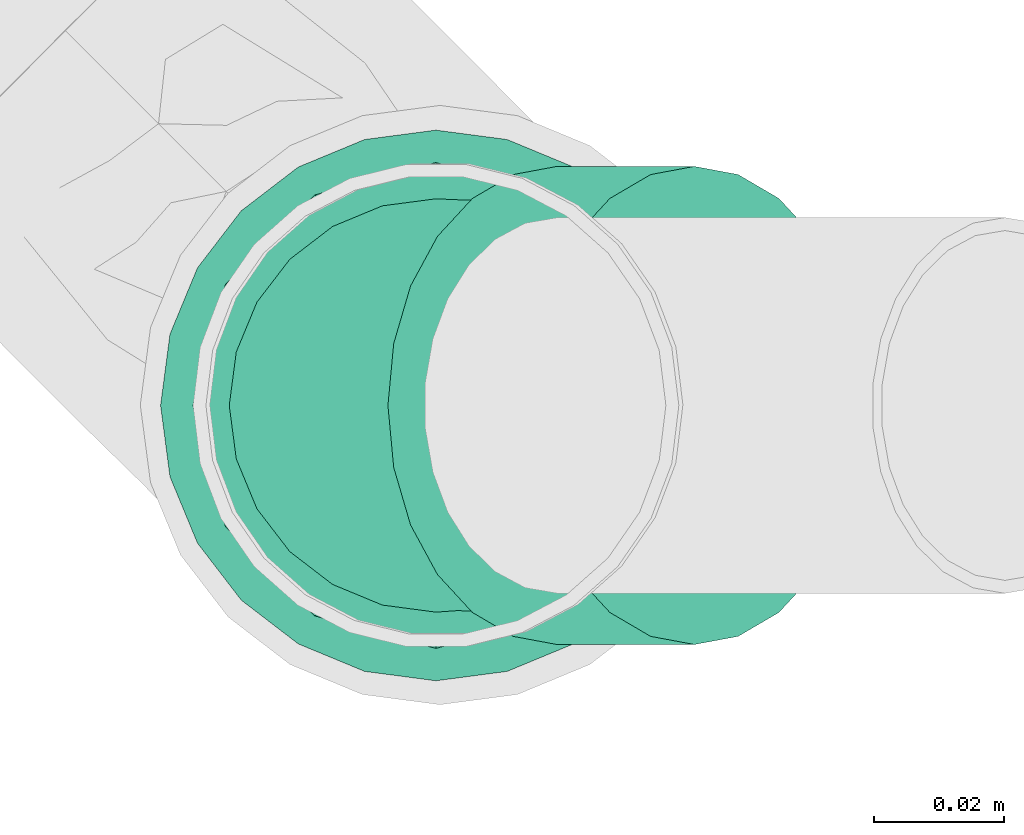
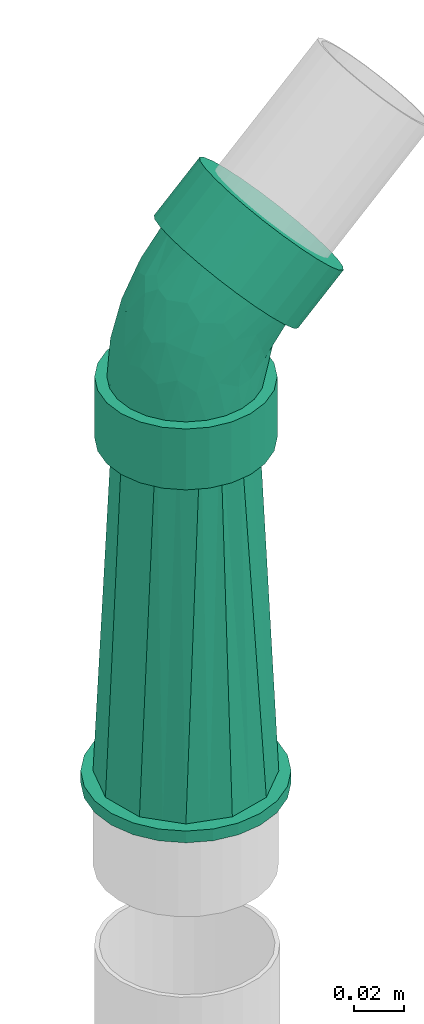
# One storey, part 67 of 83: 2 flow fittings.
"""IFC2X3 building model written with IfcOpenShell, lengths in millimetres."""

from ifc_helpers import new_model, entity, si_unit, converted_unit, derived_unit, direction, frame, origin_with_axes, place, context, subcontext, project, spatial, open_shell, surface_model, source, transform, mapped, type_object, element, save


model = new_model("IFC2X3")

# Units and contexts
model_context = context("Model", 3, precision=0.01, world=frame((0.0, 4.29681676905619e-09, 0.0)), true_north=direction((4.01073788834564e-13, 1.0)))
plan_context = context("Plan", 3, precision=0.01, world=frame((0.0, 4.29681676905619e-09, 0.0)), true_north=direction((4.01073788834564e-13, 1.0)))
body_context = subcontext(model_context, "Body", "Model", "MODEL_VIEW")
ifc_project = project(units=[converted_unit("PLANEANGLEUNIT", "DEGREE", entity("IfcPositiveLengthMeasure", 0.0174532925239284), si_unit("PLANEANGLEUNIT", "RADIAN"), dimensions=[0, 0, 0, 0, 0, 0, 0]), si_unit("AREAUNIT", "SQUARE_METRE"), si_unit("LENGTHUNIT", "METRE", prefix="MILLI"), si_unit("MASSUNIT", "GRAM", prefix="KILO"), si_unit("POWERUNIT", "WATT"), si_unit("PRESSUREUNIT", "PASCAL"), si_unit("FORCEUNIT", "NEWTON", prefix="KILO"), si_unit("ELECTRICVOLTAGEUNIT", "VOLT"), si_unit("ELECTRICCURRENTUNIT", "AMPERE"), si_unit("THERMODYNAMICTEMPERATUREUNIT", "DEGREE_CELSIUS"), si_unit("TIMEUNIT", "SECOND"), si_unit("VOLUMEUNIT", "CUBIC_METRE"), derived_unit("LINEARVELOCITYUNIT", [(si_unit("LENGTHUNIT", "METRE"), 1), (si_unit("TIMEUNIT", "SECOND"), -1)]), derived_unit("VOLUMETRICFLOWRATEUNIT", [(si_unit("VOLUMEUNIT", "CUBIC_METRE"), 1), (si_unit("TIMEUNIT", "SECOND"), -1)]), derived_unit("THERMALTRANSMITTANCEUNIT", [(si_unit("POWERUNIT", "WATT"), 1), (si_unit("THERMODYNAMICTEMPERATUREUNIT", "KELVIN"), -1), (si_unit("AREAUNIT", "SQUARE_METRE"), -1)]), derived_unit("SOUNDPRESSUREUNIT", [(si_unit("PRESSUREUNIT", "PASCAL"), 1)])], contexts=[model_context, plan_context])

# Site, building, storey
site_placement = place(None, frame((0.0, -4.29681676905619e-09, 0.0), z_axis=(0.0, 0.0, 1.0), x_axis=(1.0, 0.0, 0.0)))
site = spatial("IfcSite", under=ifc_project, at=site_placement, Name="ENGM", CompositionType="ELEMENT")
building_placement = place(site_placement, frame((0.0, 4.29681676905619e-09, 0.0), z_axis=(0.0, 0.0, 1.0), x_axis=(1.0, 0.0, 0.0)))
building = spatial("IfcBuilding", under=site, at=building_placement, Name="TI", CompositionType="ELEMENT")
storey_placement = place(building_placement, frame((0.0, 0.0, 204000.0), z_axis=(0.0, 0.0, 1.0), x_axis=(1.0, 0.0, 0.0)))
storey = spatial("IfcBuildingStorey", under=building, at=storey_placement, Name="Nivå D", CompositionType="ELEMENT", Elevation=204000.0)

# Flow fittings
pipe_fitting_type_1 = type_object("IfcPipeFittingType", Name="magi_sewer_bend_001", PredefinedType="BEND")
shared_shape_1 = source(origin_with_axes(), body_context, "Body", "SurfaceModel", [
    surface_model("IfcShellBasedSurfaceModel", [(-56.42682, -9.55042, -35.64266), (-56.42682, -18.45, -31.95634), (-56.42682, -26.09224, -26.09224), (-56.42682, 9.55042, -35.64266), (-56.42682, -35.64266, -9.55042), (-56.42682, -36.9, 0.0), (-56.42682, -31.95634, -18.45), (-56.42682, 35.64266, -9.55042), (-56.42682, 0.0, -36.9), (-56.42682, 18.45, -31.95634), (-56.42682, 31.95634, -18.45), (-56.42682, 26.09224, -26.09224), (-56.42682, -35.64266, 9.55042), (-56.42682, -31.95634, 18.45), (-56.42682, -26.09224, 26.09224), (-56.42682, 18.45, 31.95634), (-56.42682, -9.55042, 35.64266), (-56.42682, 0.0, 36.9), (-56.42682, -18.45, 31.95634), (-56.42682, 35.64266, 9.55042), (-56.42682, 31.95634, 18.45), (-56.42682, 36.9, 0.0), (-56.42682, 26.09224, 26.09224), (-56.42682, 9.55042, 35.64266), (-26.42683, -26.09224, 26.09224), (-26.42683, 0.0, 36.9), (-26.42683, -9.55042, 35.64266), (-26.42683, -18.45, 31.95634), (-26.42683, -31.95634, 18.45), (-26.42683, -35.64266, 9.55042), (-26.42683, 35.64266, 9.55042), (-26.42683, 18.45, 31.95634), (-26.42683, 31.95634, 18.45), (-26.42683, 26.09224, 26.09224), (-26.42683, 9.55042, 35.64266), (-26.42683, 35.64266, -9.55042), (-26.42683, 36.9, 0.0), (-26.42683, -26.09224, -26.09224), (-26.42683, -36.9, 0.0), (-26.42683, -35.64266, -9.55042), (-26.42683, -31.95634, -18.45), (-26.42683, -18.45, -31.95634), (-26.42683, -9.55042, -35.64266), (-26.42683, 9.55042, -35.64266), (-26.42683, 0.0, -36.9), (-26.42683, 31.95634, -18.45), (-26.42683, 18.45, -31.95634), (-26.42683, 26.09224, -26.09224), (14.69662, 65.10296, 9.55042), (17.30325, 62.49634, 18.45), (21.44979, 58.34979, 26.09224), (13.80755, 65.99203, 0.0), (26.85367, 52.94591, 31.95634), (33.14662, 46.65296, 35.64266), (39.89979, 39.89979, 36.9), (33.14662, 46.65296, -35.64266), (14.69662, 65.10296, -9.55042), (26.85367, 52.94591, -31.95634), (17.30325, 62.49634, -18.45), (21.44979, 58.34979, -26.09224), (46.65296, 33.14662, 35.64266), (62.49634, 17.30325, 18.45), (52.94591, 26.85367, 31.95634), (58.34979, 21.44979, 26.09224), (65.10296, 14.69662, 9.55042), (65.99203, 13.80755, 0.0), (46.65296, 33.14662, -35.64266), (58.34979, 21.44979, -26.09224), (52.94591, 26.85367, -31.95634), (39.89979, 39.89979, -36.9), (65.10296, 14.69662, -9.55042), (62.49634, 17.30325, -18.45), (44.77883, -7.40565, 0.0), (43.88975, -6.51658, 9.55042), (41.28313, -3.90996, 18.45), (37.13659, 0.23659, 26.09224), (31.73271, 5.64047, 31.95634), (25.43976, 11.93342, 35.64266), (25.43976, 11.93342, -35.64266), (18.68659, 18.68659, 36.9), (43.88975, -6.51658, -9.55042), (37.13659, 0.23659, -26.09224), (41.28313, -3.90996, -18.45), (31.73271, 5.64047, -31.95634), (11.93342, 25.43976, -35.64266), (18.68659, 18.68659, -36.9), (0.23659, 37.13659, 26.09224), (11.93342, 25.43976, 35.64266), (5.64047, 31.73271, 31.95634), (-3.90996, 41.28313, 18.45), (-6.51658, 43.88975, 9.55042), (-6.51658, 43.88975, -9.55042), (5.64047, 31.73271, -31.95634), (-3.90996, 41.28313, -18.45), (0.23659, 37.13659, -26.09224), (-7.40565, 44.77883, 0.0), (-26.42683, 0.0, -31.9), (-26.42683, -22.55671, -22.55671), (-26.42683, 8.25633, -30.81303), (-26.42683, 15.95, -27.62621), (-26.42683, 22.55671, -22.55671), (-26.42683, 30.81303, -8.25633), (-26.42683, 27.62621, -15.95), (-26.42683, -30.81303, -8.25633), (-26.42683, 15.95, 27.62621), (-26.42683, -15.95, -27.62621), (-26.42683, -8.25633, -30.81303), (-26.42683, -27.62621, -15.95), (-26.42683, -31.9, 0.0), (-26.42683, -15.95, 27.62621), (-26.42683, 30.81303, 8.25633), (-26.42683, 27.62621, 15.95), (-26.42683, 22.55671, 22.55671), (-26.42683, 8.25633, 30.81303), (-26.42683, -30.81303, 8.25633), (-26.42683, -27.62621, 15.95), (-26.42683, -22.55671, 22.55671), (-26.42683, -8.25633, 30.81303), (-26.42683, 0.0, 31.9), (-26.42683, 31.9, 0.0), (12.84848, 24.52469, -30.81303), (34.63659, 2.73659, -22.55671), (18.68659, 18.68659, -31.9), (2.73659, 34.63659, -22.55671), (7.40823, 29.96494, -27.62621), (-0.84809, 38.22127, -15.95), (-3.10152, 40.47469, -8.25633), (40.47469, -3.10152, 8.25633), (40.47469, -3.10152, -8.25633), (24.52469, 12.84848, -30.81303), (29.96494, 7.40823, -27.62621), (38.22127, -0.84809, -15.95), (41.24329, -3.87012, 0.0), (-3.10152, 40.47469, 8.25633), (38.22127, -0.84809, 15.95), (-3.87012, 41.24329, 0.0), (2.73659, 34.63659, 22.55671), (-0.84809, 38.22127, 15.95), (7.40823, 29.96494, 27.62621), (34.63659, 2.73659, 22.55671), (12.84848, 24.52469, 30.81303), (29.96494, 7.40823, 27.62621), (24.52469, 12.84848, 30.81303), (18.68659, 18.68659, 31.9), (8.12473, -19.61484, 17.7769), (-7.05738, -18.02915, 24.61529), (-10.3009, -24.39746, 18.67868), (-10.6584, -29.82405, 0.0), (-1.65784, -28.6391, 0.0), (-6.80885, -29.38889, 5.44723), (24.53544, -9.96777, 18.67868), (-12.63998, -11.69747, 29.15496), (3.27541, -7.90755, 28.75303), (0.94687, 19.1776, 29.77411), (5.76678, 15.10003, 31.43602), (-9.52072, -3.07141, 31.47738), (-3.03412, 7.32502, 31.7879), (-15.98337, 4.42042, 31.70641), (-9.06126, 21.87581, 26.04333), (-14.06781, 26.75285, 20.13105), (17.20917, 0.66646, 29.15496), (-12.25699, 13.27446, 29.822), (12.3108, -20.87814, 12.57203), (-5.71978, -27.59833, 11.07805), (9.90414, -23.91071, 6.93348), (-13.14137, 31.72606, 13.1059), (25.59567, -15.9665, 5.44723), (28.62541, -13.55216, 0.0), (-12.77736, 34.18175, 6.70257), (23.55946, -15.47048, 11.07805), (8.90398, 4.56035, 31.47738), (17.73885, -7.75821, 24.61529), (-14.21922, 34.32824, 0.0), (5.35435, -12.92655, 25.43848), (9.88267, -23.85887, 0.0), (21.42317, -19.07863, 0.0), (-9.52072, -3.07141, -31.47738), (-6.80885, -29.38889, -5.44723), (9.90414, -23.91071, -6.93348), (8.90398, 4.56035, -31.47738), (-14.23015, 12.89108, -29.77411), (-14.75506, 6.5996, -31.43602), (-8.96968, 28.86457, -20.13105), (17.73885, -7.75821, -24.61529), (-13.14137, 31.72606, -13.1059), (23.55946, -15.47048, -11.07805), (-15.13519, 33.20511, -6.70257), (-0.71946, 18.05346, -29.822), (-5.71978, -27.59833, -11.07805), (-9.06126, 21.87581, -26.04333), (-10.3009, -24.39746, -18.67868), (-7.05738, -18.02915, -24.61529), (5.35435, -12.92655, -25.43848), (8.12473, -19.61484, -17.7769), (-12.63998, -11.69747, -29.15496), (17.20917, 0.66646, -29.15496), (3.27541, -7.90755, -28.75303), (25.59567, -15.9665, -5.44723), (8.17623, 14.42766, -31.70641), (6.05802, -23.46812, -12.57203), (24.53544, -9.96777, -18.67868), (-3.03412, 7.32502, -31.7879)], [open_shell([[[0, 1, 2]], [[3, 0, 2]], [[4, 5, 2]], [[4, 2, 6]], [[7, 2, 5]], [[0, 3, 8]], [[2, 9, 3]], [[9, 10, 11]], [[2, 10, 9]], [[2, 7, 10]], [[5, 12, 7]], [[12, 13, 14]], [[15, 12, 14]], [[16, 17, 14]], [[16, 14, 18]], [[15, 14, 17]], [[19, 15, 20]], [[21, 7, 19]], [[20, 15, 22]], [[19, 12, 15]], [[23, 15, 17]], [[19, 7, 12]], [[24, 25, 26]], [[24, 26, 27]], [[24, 28, 29]], [[25, 24, 30]], [[30, 24, 29]], [[31, 32, 33]], [[31, 34, 25]], [[31, 30, 32]], [[25, 30, 31]], [[30, 35, 36]], [[30, 29, 35]], [[37, 38, 39]], [[37, 39, 40]], [[37, 41, 42]], [[38, 37, 43]], [[44, 37, 42]], [[45, 46, 47]], [[45, 35, 38]], [[38, 43, 46]], [[46, 45, 38]], [[43, 37, 44]], [[38, 35, 29]], [[35, 7, 36]], [[45, 10, 35]], [[9, 47, 46]], [[45, 47, 11]], [[3, 46, 43]], [[35, 10, 7]], [[7, 21, 36]], [[3, 9, 46]], [[11, 47, 9]], [[11, 10, 45]], [[8, 3, 43]], [[43, 44, 8]], [[42, 0, 44]], [[41, 1, 42]], [[39, 38, 4]], [[37, 2, 41]], [[41, 2, 1]], [[1, 0, 42]], [[6, 40, 4]], [[6, 2, 37]], [[4, 40, 39]], [[38, 5, 4]], [[6, 37, 40]], [[44, 0, 8]], [[29, 12, 38]], [[28, 13, 29]], [[18, 24, 27]], [[28, 24, 14]], [[16, 27, 26]], [[29, 13, 12]], [[12, 5, 38]], [[16, 18, 27]], [[14, 24, 18]], [[14, 13, 28]], [[17, 16, 26]], [[26, 25, 17]], [[15, 31, 33]], [[20, 32, 30]], [[33, 32, 22]], [[19, 30, 36]], [[23, 34, 15]], [[34, 23, 25]], [[34, 31, 15]], [[33, 22, 15]], [[32, 20, 22]], [[19, 20, 30]], [[36, 21, 19]], [[25, 23, 17]], [[48, 49, 50]], [[51, 48, 50]], [[52, 53, 54]], [[52, 54, 50]], [[55, 50, 54]], [[56, 57, 58]], [[56, 51, 50]], [[58, 57, 59]], [[50, 57, 56]], [[50, 55, 57]], [[54, 60, 55]], [[61, 60, 62]], [[61, 62, 63]], [[61, 64, 65]], [[61, 65, 60]], [[60, 65, 66]], [[66, 67, 68]], [[69, 55, 66]], [[67, 70, 71]], [[67, 66, 65]], [[70, 67, 65]], [[66, 55, 60]], [[72, 73, 74]], [[72, 74, 75]], [[75, 76, 77]], [[75, 77, 72]], [[78, 72, 79]], [[80, 81, 82]], [[80, 72, 81]], [[81, 78, 83]], [[72, 78, 81]], [[78, 84, 85]], [[79, 72, 77]], [[86, 79, 87]], [[86, 87, 88]], [[86, 89, 90]], [[86, 91, 78]], [[91, 86, 90]], [[92, 93, 94]], [[84, 78, 92]], [[93, 92, 78]], [[93, 78, 91]], [[90, 95, 91]], [[86, 78, 79]], [[84, 55, 85]], [[92, 57, 84]], [[58, 94, 93]], [[92, 94, 59]], [[56, 93, 91]], [[84, 57, 55]], [[55, 69, 85]], [[56, 58, 93]], [[59, 94, 58]], [[59, 57, 92]], [[51, 56, 91]], [[91, 95, 51]], [[90, 48, 95]], [[89, 49, 90]], [[87, 79, 53]], [[86, 50, 89]], [[89, 50, 49]], [[49, 48, 90]], [[52, 88, 53]], [[52, 50, 86]], [[53, 88, 87]], [[79, 54, 53]], [[52, 86, 88]], [[95, 48, 51]], [[77, 60, 79]], [[76, 62, 77]], [[61, 75, 74]], [[76, 75, 63]], [[64, 74, 73]], [[77, 62, 60]], [[60, 54, 79]], [[64, 61, 74]], [[63, 75, 61]], [[63, 62, 76]], [[65, 64, 73]], [[73, 72, 65]], [[71, 82, 81]], [[68, 83, 78]], [[81, 83, 67]], [[66, 78, 85]], [[70, 80, 71]], [[80, 70, 72]], [[80, 82, 71]], [[81, 67, 71]], [[83, 68, 67]], [[66, 68, 78]], [[85, 69, 66]], [[72, 70, 65]], [[96, 97, 98]], [[99, 98, 100]], [[101, 102, 100]], [[100, 98, 97]], [[100, 103, 104]], [[105, 97, 106]], [[97, 96, 106]], [[107, 103, 97]], [[97, 103, 100]], [[108, 109, 103]], [[101, 100, 110]], [[104, 110, 100]], [[111, 110, 104]], [[103, 109, 104]], [[112, 111, 104]], [[113, 104, 109]], [[114, 115, 108]], [[108, 115, 116]], [[117, 118, 109]], [[109, 108, 116]], [[113, 109, 118]], [[110, 119, 101]], [[120, 121, 122]], [[123, 120, 124]], [[123, 125, 126]], [[121, 120, 123]], [[123, 127, 128]], [[129, 121, 130]], [[129, 122, 121]], [[121, 128, 131]], [[123, 128, 121]], [[128, 127, 132]], [[123, 126, 127]], [[133, 134, 135]], [[136, 133, 137]], [[133, 138, 139]], [[138, 133, 136]], [[140, 141, 138]], [[135, 134, 127]], [[133, 139, 134]], [[140, 142, 141]], [[141, 139, 138]], [[142, 140, 143]], [[135, 127, 126]], [[144, 145, 146]], [[147, 148, 149]], [[109, 116, 145]], [[134, 139, 150]], [[151, 145, 152]], [[146, 145, 116]], [[140, 153, 154]], [[117, 109, 151]], [[155, 156, 157]], [[118, 117, 155]], [[112, 158, 159]], [[141, 142, 160]], [[157, 113, 118]], [[104, 161, 158]], [[114, 147, 149]], [[138, 136, 158]], [[162, 163, 164]], [[158, 112, 104]], [[116, 115, 146]], [[111, 159, 165]], [[110, 111, 165]], [[127, 166, 167]], [[168, 119, 110]], [[169, 162, 164]], [[163, 149, 164]], [[104, 113, 161]], [[143, 154, 170]], [[139, 141, 171]], [[137, 133, 165]], [[170, 142, 143]], [[144, 146, 163]], [[139, 171, 150]], [[156, 154, 153]], [[171, 141, 160]], [[115, 163, 146]], [[166, 127, 169]], [[144, 150, 171]], [[157, 161, 113]], [[144, 162, 150]], [[110, 165, 168]], [[115, 114, 163]], [[172, 168, 135]], [[145, 173, 152]], [[133, 168, 165]], [[152, 170, 155]], [[137, 165, 159]], [[152, 160, 170]], [[137, 159, 136]], [[156, 155, 170]], [[140, 138, 153]], [[153, 158, 161]], [[151, 155, 117]], [[111, 112, 159]], [[169, 127, 134]], [[169, 134, 150]], [[173, 144, 171]], [[136, 159, 158]], [[158, 153, 138]], [[156, 153, 161]], [[145, 151, 109]], [[155, 151, 152]], [[170, 160, 142]], [[171, 160, 152]], [[114, 108, 147]], [[164, 148, 174]], [[114, 149, 163]], [[148, 164, 149]], [[166, 164, 175]], [[167, 166, 175]], [[167, 132, 127]], [[164, 166, 169]], [[170, 154, 156]], [[143, 140, 154]], [[155, 157, 118]], [[161, 157, 156]], [[144, 173, 145]], [[171, 152, 173]], [[135, 168, 133]], [[168, 172, 119]], [[150, 162, 169]], [[163, 162, 144]], [[175, 164, 174]], [[106, 96, 176]], [[148, 177, 178]], [[122, 129, 179]], [[180, 181, 98]], [[102, 182, 100]], [[130, 121, 183]], [[184, 182, 102]], [[131, 128, 185]], [[101, 186, 184]], [[124, 120, 187]], [[103, 177, 147]], [[99, 180, 98]], [[177, 103, 188]], [[123, 189, 182]], [[188, 107, 190]], [[190, 97, 191]], [[97, 105, 191]], [[192, 193, 191]], [[103, 107, 188]], [[97, 190, 107]], [[194, 105, 106]], [[195, 179, 129]], [[126, 125, 184]], [[196, 194, 176]], [[119, 172, 186]], [[193, 190, 191]], [[135, 126, 186]], [[196, 176, 179]], [[123, 124, 189]], [[184, 102, 101]], [[125, 182, 184]], [[194, 191, 105]], [[187, 189, 124]], [[181, 176, 96]], [[189, 187, 180]], [[100, 189, 99]], [[128, 167, 197]], [[198, 120, 122]], [[195, 129, 130]], [[199, 185, 178]], [[121, 200, 183]], [[196, 195, 183]], [[121, 131, 200]], [[201, 198, 179]], [[200, 193, 183]], [[201, 179, 176]], [[197, 167, 175]], [[198, 187, 120]], [[201, 181, 180]], [[177, 188, 178]], [[193, 199, 190]], [[183, 192, 196]], [[131, 185, 200]], [[126, 184, 186]], [[193, 200, 185]], [[125, 123, 182]], [[100, 182, 189]], [[189, 180, 99]], [[201, 180, 187]], [[176, 194, 106]], [[191, 194, 196]], [[183, 195, 130]], [[179, 195, 196]], [[147, 177, 148]], [[147, 108, 103]], [[199, 178, 188]], [[197, 178, 185]], [[178, 175, 174]], [[128, 132, 167]], [[178, 197, 175]], [[128, 197, 185]], [[176, 181, 201]], [[96, 98, 181]], [[179, 198, 122]], [[187, 198, 201]], [[193, 192, 183]], [[191, 196, 192]], [[119, 186, 101]], [[186, 172, 135]], [[190, 199, 188]], [[185, 199, 193]], [[148, 178, 174]]])]),
])
flow_fitting_1_placement = place(storey_placement, frame((609124.91157, 693990.76857, 6998.02262999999), z_axis=(0.0, 1.0, 0.0), x_axis=(0.0, 0.0, 1.0)))
element("IfcFlowFitting", 1, at=flow_fitting_1_placement, inside=storey, type_object=pipe_fitting_type_1, Name="magi_sewer_bend_001", context=body_context, shape_type="MappedRepresentation", body=[
    mapped(shared_shape_1, transform((0.0, 0.0, 0.0), scale=1.0)),
])
pipe_fitting_type_2 = type_object("IfcPipeFittingType", Name="magi_sewer_transition_001", PredefinedType="TRANSITION")
shared_shape_2 = source(origin_with_axes(), body_context, "Body", "SurfaceModel", [
    surface_model("IfcShellBasedSurfaceModel", [(200.0, 21.25, -36.80608), (200.0, -41.05185, -10.99981), (200.0, 10.99981, -41.05185), (200.0, 36.80608, -21.25), (200.0, 30.05204, -30.05204), (200.0, 41.05185, -10.99981), (200.0, 42.5, 0.0), (200.0, 30.05204, 30.05204), (200.0, -10.99981, -41.05185), (200.0, -21.25, -36.80608), (200.0, 0.0, -42.5), (200.0, -30.05204, -30.05204), (200.0, -36.80608, -21.25), (200.0, 41.05185, 10.99981), (200.0, 36.80608, 21.25), (200.0, 10.99981, 41.05185), (200.0, 0.0, 42.5), (200.0, 21.25, 36.80608), (200.0, -42.5, 0.0), (200.0, -41.05185, 10.99981), (200.0, -10.99981, 41.05185), (200.0, -36.80608, 21.25), (200.0, -30.05204, 30.05204), (200.0, -21.25, 36.80608), (0.0, 17.0, -29.44486), (0.0, 32.84148, -8.79985), (0.0, 24.04163, -24.04163), (194.19999, 0.0, 37.5), (194.19999, -18.75, 32.47595), (194.19999, -32.47595, 18.75), (194.19999, 18.75, 32.47595), (194.19999, 37.5, 0.0), (194.19999, 32.47595, 18.75), (194.19999, -32.47595, -18.75), (194.19999, -18.75, -32.47595), (194.19999, 0.0, -37.5), (194.19999, 18.75, -32.47595), (194.19999, 32.47595, -18.75), (194.19999, -37.5, 0.0), (5.8, 8.96149, 27.58064), (5.8, 23.46149, 17.04577), (5.8, -8.96149, 27.58064), (5.8, -29.0, 0.0), (5.8, -23.46149, 17.04577), (5.8, -8.96149, -27.58064), (5.8, 23.46149, -17.04577), (5.8, 8.96149, -27.58064), (5.8, -23.46149, -17.04577), (5.8, 29.0, 0.0), (5.8, -26.23075, -8.52289), (194.19999, 9.375, -34.98798), (5.8, 0.0, -27.58064), (194.19999, -35.7121, -6.67254), (194.19999, -25.61298, -25.61298), (5.8, -16.21149, -22.3132), (5.8, 16.21149, -22.3132), (194.19999, 35.7121, -6.67254), (5.8, 26.23075, -8.52289), (194.19999, 25.61298, -25.61298), (194.19999, -9.375, -34.98798), (5.8, 26.23075, 8.52289), (194.19999, -9.375, 34.98798), (5.8, 0.0, 27.58064), (194.19999, 35.7121, 6.67254), (194.19999, 25.61298, 25.61298), (5.8, 16.21149, 22.3132), (5.8, -16.21149, 22.3132), (194.19999, -35.7121, 6.67254), (5.8, -26.23075, 8.52289), (194.19999, -25.61298, 25.61298), (194.19999, 9.375, 34.98798), (194.19999, 10.99981, 41.05185), (194.19999, -10.99981, 41.05185), (194.19999, 0.0, 42.5), (194.19999, 30.05204, 30.05204), (194.19999, 21.25, 36.80608), (194.19999, 36.80608, 21.25), (194.19999, 41.05185, 10.99981), (194.19999, -42.5, 0.0), (194.19999, -41.05185, -10.99981), (194.19999, -30.05204, 30.05204), (194.19999, -21.25, 36.80608), (194.19999, -36.80608, 21.25), (194.19999, -41.05185, 10.99981), (194.19999, 21.25, -36.80608), (194.19999, 42.5, 0.0), (194.19999, 41.05185, -10.99981), (194.19999, 36.80608, -21.25), (194.19999, -10.99981, -41.05185), (194.19999, 30.05204, -30.05204), (194.19999, 10.99981, -41.05185), (194.19999, -30.05204, -30.05204), (194.19999, -36.80608, -21.25), (194.19999, -21.25, -36.80608), (194.19999, 0.0, -42.5), (5.8, 17.0, -29.44486), (5.8, -17.0, -29.44486), (5.8, 8.79985, -32.84148), (5.8, 29.44486, -17.0), (5.8, 24.04163, -24.04163), (5.8, 32.84148, -8.79985), (5.8, 34.0, 0.0), (5.8, 0.0, -34.0), (5.8, -8.79985, -32.84148), (5.8, -24.04163, -24.04163), (5.8, -32.84148, -8.79985), (5.8, -29.44486, -17.0), (5.8, 32.84148, 8.79985), (5.8, 29.44486, 17.0), (5.8, 24.04163, 24.04163), (5.8, 17.0, 29.44486), (5.8, 8.79985, 32.84148), (5.8, 0.0, 34.0), (5.8, -8.79985, 32.84148), (5.8, -32.84148, 8.79985), (5.8, -24.04163, 24.04163), (5.8, -29.44486, 17.0), (5.8, -34.0, 0.0), (5.8, -17.0, 29.44486), (0.0, 0.0, 34.0), (0.0, 8.79985, 32.84148), (0.0, 17.0, 29.44486), (0.0, 24.04163, 24.04163), (0.0, 29.44486, 17.0), (0.0, 32.84148, 8.79985), (0.0, -32.84148, 8.79985), (0.0, -8.79985, 32.84148), (0.0, -24.04163, 24.04163), (0.0, -17.0, 29.44486), (0.0, -29.44486, 17.0), (0.0, -32.84148, -8.79985), (0.0, -34.0, 0.0), (0.0, 34.0, 0.0), (0.0, 29.44486, -17.0), (0.0, 8.79985, -32.84148), (0.0, -24.04163, -24.04163), (0.0, -29.44486, -17.0), (0.0, -17.0, -29.44486), (0.0, 0.0, -34.0), (0.0, -8.79985, -32.84148)], [open_shell([[[0, 1, 2]], [[3, 0, 4]], [[3, 5, 6]], [[0, 3, 7]], [[7, 1, 0]], [[8, 1, 9]], [[8, 10, 2]], [[11, 1, 12]], [[1, 11, 9]], [[2, 1, 8]], [[13, 3, 6]], [[13, 14, 7]], [[7, 15, 1]], [[15, 16, 1]], [[15, 7, 17]], [[1, 16, 18]], [[19, 20, 21]], [[20, 19, 18]], [[22, 20, 23]], [[20, 22, 21]], [[18, 16, 20]], [[7, 3, 13]], [[24, 25, 26]], [[27, 28, 29]], [[27, 29, 30]], [[30, 31, 32]], [[31, 30, 29]], [[29, 33, 31]], [[33, 34, 31]], [[35, 31, 34]], [[36, 37, 31]], [[31, 35, 36]], [[38, 33, 29]], [[39, 40, 41]], [[41, 42, 43]], [[42, 41, 40]], [[40, 44, 42]], [[45, 46, 40]], [[42, 44, 47]], [[40, 46, 44]], [[40, 48, 45]], [[33, 49, 47]], [[46, 50, 51]], [[33, 52, 49]], [[53, 47, 54]], [[42, 52, 38]], [[52, 42, 49]], [[36, 46, 55]], [[48, 31, 56]], [[37, 57, 56]], [[54, 44, 34]], [[56, 57, 48]], [[45, 37, 58]], [[54, 34, 53]], [[46, 36, 50]], [[51, 59, 44]], [[55, 45, 58]], [[45, 57, 37]], [[59, 34, 44]], [[36, 55, 58]], [[51, 50, 35]], [[59, 51, 35]], [[33, 47, 53]], [[32, 60, 40]], [[41, 61, 62]], [[32, 63, 60]], [[64, 40, 65]], [[48, 63, 31]], [[63, 48, 60]], [[28, 41, 66]], [[42, 38, 67]], [[29, 68, 67]], [[65, 39, 30]], [[67, 68, 42]], [[43, 29, 69]], [[65, 30, 64]], [[41, 28, 61]], [[62, 70, 39]], [[66, 43, 69]], [[43, 68, 29]], [[70, 30, 39]], [[28, 66, 69]], [[62, 61, 27]], [[70, 62, 27]], [[32, 40, 64]], [[71, 72, 73]], [[74, 71, 75]], [[74, 76, 77]], [[78, 71, 74]], [[79, 78, 74]], [[72, 80, 81]], [[80, 72, 82]], [[72, 83, 82]], [[83, 72, 78]], [[72, 71, 78]], [[74, 77, 84]], [[85, 86, 87]], [[87, 84, 77]], [[84, 88, 74]], [[84, 87, 89]], [[90, 88, 84]], [[79, 91, 92]], [[91, 79, 93]], [[79, 88, 93]], [[74, 88, 79]], [[90, 94, 88]], [[77, 85, 87]], [[79, 1, 78]], [[92, 12, 79]], [[9, 91, 93]], [[92, 91, 11]], [[8, 93, 88]], [[79, 12, 1]], [[1, 18, 78]], [[8, 9, 93]], [[11, 91, 9]], [[11, 12, 92]], [[10, 8, 88]], [[88, 94, 10]], [[90, 2, 94]], [[84, 0, 90]], [[3, 89, 87]], [[84, 89, 4]], [[5, 87, 86]], [[84, 4, 0]], [[0, 2, 90]], [[6, 5, 86]], [[3, 87, 5]], [[3, 4, 89]], [[85, 6, 86]], [[94, 2, 10]], [[77, 13, 85]], [[76, 14, 77]], [[17, 74, 75]], [[76, 74, 7]], [[15, 75, 71]], [[77, 14, 13]], [[13, 6, 85]], [[15, 17, 75]], [[7, 74, 17]], [[7, 14, 76]], [[16, 15, 71]], [[71, 73, 16]], [[72, 20, 73]], [[81, 23, 72]], [[21, 80, 82]], [[81, 80, 22]], [[19, 82, 83]], [[81, 22, 23]], [[23, 20, 72]], [[18, 19, 83]], [[21, 82, 19]], [[21, 22, 80]], [[78, 18, 83]], [[73, 20, 16]], [[95, 96, 97]], [[98, 95, 99]], [[96, 95, 100]], [[100, 95, 98]], [[96, 100, 101]], [[102, 96, 103]], [[102, 97, 96]], [[104, 105, 106]], [[105, 104, 96]], [[101, 105, 96]], [[101, 107, 105]], [[107, 108, 109]], [[107, 109, 110]], [[110, 111, 112]], [[110, 112, 107]], [[107, 112, 113]], [[114, 115, 116]], [[117, 105, 114]], [[115, 113, 118]], [[115, 114, 107]], [[113, 115, 107]], [[114, 105, 107]], [[119, 120, 121]], [[119, 121, 122]], [[122, 123, 124]], [[122, 124, 119]], [[119, 124, 125]], [[126, 127, 128]], [[127, 126, 125]], [[127, 125, 129]], [[126, 119, 125]], [[125, 130, 131]], [[125, 124, 130]], [[24, 132, 25]], [[26, 25, 133]], [[132, 24, 130]], [[130, 24, 134]], [[130, 135, 136]], [[135, 130, 137]], [[137, 138, 139]], [[137, 130, 134]], [[134, 138, 137]], [[132, 130, 124]], [[130, 105, 131]], [[136, 106, 130]], [[96, 135, 137]], [[136, 135, 104]], [[103, 137, 139]], [[130, 106, 105]], [[105, 117, 131]], [[103, 96, 137]], [[104, 135, 96]], [[104, 106, 136]], [[102, 103, 139]], [[139, 138, 102]], [[134, 97, 138]], [[24, 95, 134]], [[98, 26, 133]], [[24, 26, 99]], [[100, 133, 25]], [[24, 99, 95]], [[95, 97, 134]], [[101, 100, 25]], [[98, 133, 100]], [[98, 99, 26]], [[132, 101, 25]], [[138, 97, 102]], [[124, 107, 132]], [[123, 108, 124]], [[110, 122, 121]], [[123, 122, 109]], [[111, 121, 120]], [[124, 108, 107]], [[107, 101, 132]], [[111, 110, 121]], [[109, 122, 110]], [[109, 108, 123]], [[112, 111, 120]], [[120, 119, 112]], [[126, 113, 119]], [[128, 118, 126]], [[116, 127, 129]], [[128, 127, 115]], [[114, 129, 125]], [[128, 115, 118]], [[118, 113, 126]], [[117, 114, 125]], [[116, 129, 114]], [[116, 115, 127]], [[131, 117, 125]], [[119, 113, 112]]])]),
])
flow_fitting_2_placement = place(storey_placement, frame((609124.91157, 693990.76857, 6971.59581), z_axis=(0.0, -1.0, 0.0), x_axis=(0.0, 0.0, -1.0)))
element("IfcFlowFitting", 2, at=flow_fitting_2_placement, inside=storey, type_object=pipe_fitting_type_2, Name="magi_sewer_transition_001", context=body_context, shape_type="MappedRepresentation", body=[
    mapped(shared_shape_2, transform((0.0, 0.0, 0.0), scale=1.0)),
])

save(model, "model.ifc")
